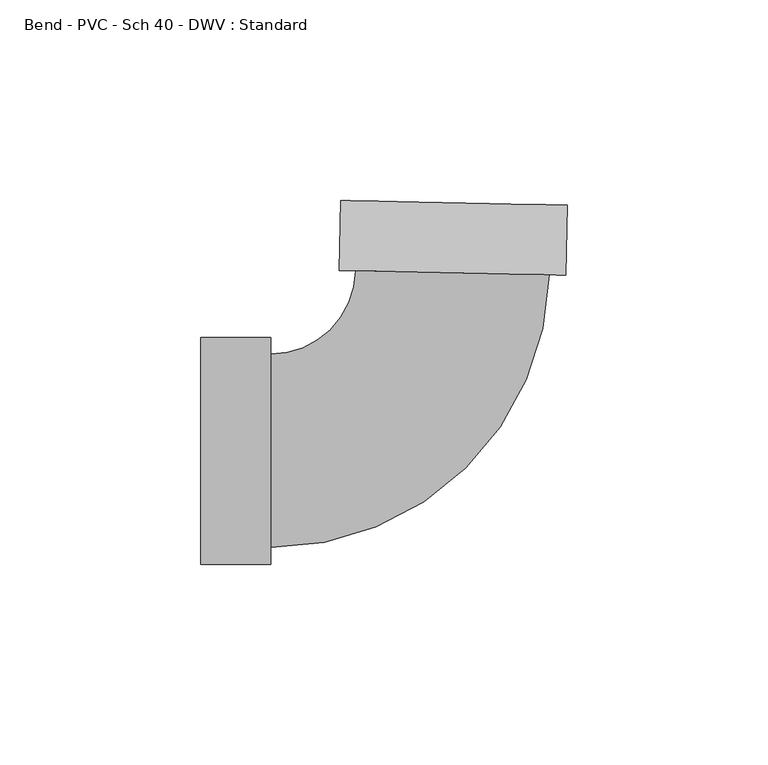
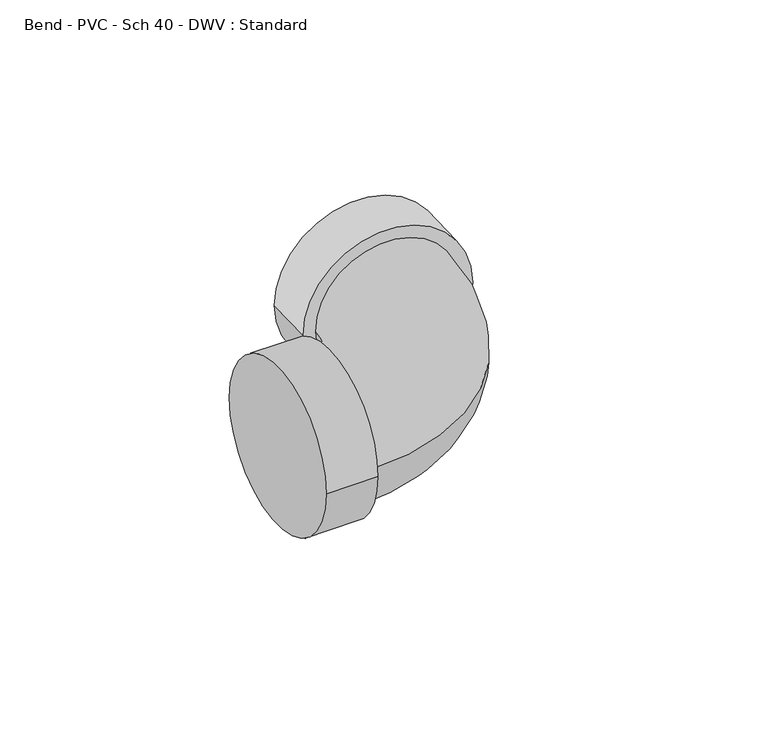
"""IFC4 building model written with IfcOpenShell, lengths in millimetres: pipe fitting geometry, Bend - PVC - Sch 40 - DWV : Standard."""

from ifc_helpers import new_model, si_unit, point, frame, origin, place, context, project, spatial, circle_curve, ellipse_curve, trimmed, source, transform, mapped, element, save
from ifc_brep_helpers import plane_surface, cylinder_surface, revolved_surface, advanced_brep


def bend_pvc_sch_40_dwv_standard_4388fb5c(model_context):
    return source(origin(), model_context, "Body", "AdvancedBrep", [
        advanced_brep(
        [(-61.8998, -28.2829, 0.0), (-61.8998, 28.2829, 0.0), (-44.45, -28.2829, 0.0), (-44.45, 28.2829, 0.0), (-44.45, -24.13, 0.0), (-44.45, 24.13, 0.0), (-23.1989244, 44.9429561, 0.0), (25.0506059, 43.9377576, 0.0), (29.202605, 43.8512576, 0.0), (-27.3509234, 45.0294561, 0.0), (29.5660636, 61.297272, 0.0), (-26.9874648, 62.4754705, 0.0)],
        [
            (0, 1, circle_curve(frame((-61.8998, 0.0, 0.0), z_axis=(-1.0, 0.0, 0.0), x_axis=(0.0, 1.0, 0.0)), 28.2829)),
            (1, 0, circle_curve(frame((-61.8998, 0.0, 0.0), z_axis=(-1.0, 0.0, 0.0), x_axis=(0.0, 1.0, 0.0)), 28.2829)),
            (2, 3, circle_curve(frame((-44.45, 0.0, 0.0), z_axis=(1.0, 0.0, 0.0), x_axis=(0.0, 1.0, 0.0)), 28.2829)),
            (3, 2, circle_curve(frame((-44.45, 0.0, 0.0), z_axis=(1.0, 0.0, 0.0), x_axis=(0.0, 1.0, 0.0)), 28.2829)),
            (4, 5, circle_curve(frame((-44.45, 0.0, 0.0), z_axis=(-1.0, 0.0, 0.0), x_axis=(0.0, 1.0, 0.0)), 24.13)),
            (5, 4, circle_curve(frame((-44.45, 0.0, 0.0), z_axis=(-1.0, 0.0, 0.0), x_axis=(0.0, 1.0, 0.0)), 24.13)),
            (0, 2),
            (3, 1),
            (6, 5, circle_curve(frame((-44.45, 45.3856869, 0.0), z_axis=(0.0, 0.0, -1.0), x_axis=(0.0, -1.0, 0.0)), 21.2556869)),
            (4, 7, circle_curve(frame((-44.45, 45.3856869, 0.0), z_axis=(0.0, 0.0, 1.0), x_axis=(0.0, -1.0, 0.0)), 69.5156869)),
            (7, 6, circle_curve(frame((0.9258408, 44.4403569, 0.0), z_axis=(-0.02082881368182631, -0.9997830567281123, 0.0), x_axis=(-0.9997830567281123, 0.02082881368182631, 0.0)), 24.13)),
            (6, 7, circle_curve(frame((0.9258408, 44.4403569, 0.0), z_axis=(-0.02082881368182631, -0.9997830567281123, 0.0), x_axis=(-0.9997830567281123, 0.02082881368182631, 0.0)), 24.13)),
            (8, 9, circle_curve(frame((0.9258408, 44.4403569, 0.0), z_axis=(-0.020828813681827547, -0.9997830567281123, 0.0), x_axis=(-0.9997830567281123, 0.020828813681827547, 0.0)), 28.2829)),
            (9, 8, circle_curve(frame((0.9258408, 44.4403569, 0.0), z_axis=(-0.020828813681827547, -0.9997830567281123, 0.0), x_axis=(-0.9997830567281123, 0.020828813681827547, 0.0)), 28.2829)),
            (10, 11, circle_curve(frame((1.2892994, 61.8863713, 0.0), z_axis=(0.020828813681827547, 0.9997830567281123, 0.0), x_axis=(-0.9997830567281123, 0.020828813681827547, 0.0)), 28.2829)),
            (11, 10, circle_curve(frame((1.2892994, 61.8863713, 0.0), z_axis=(0.020828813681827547, 0.9997830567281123, 0.0), x_axis=(-0.9997830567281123, 0.020828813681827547, 0.0)), 28.2829)),
            (8, 10),
            (11, 9),
        ],
        [
            plane_surface(frame((-61.8998, 0.0, 0.0), z_axis=(-1.0, 0.0, 0.0), x_axis=(0.0, 0.0, 1.0))),
            plane_surface(frame((-44.45, 0.0, 0.0), z_axis=(1.0, 0.0, 0.0), x_axis=(0.0, 0.0, 1.0))),
            cylinder_surface(frame((-61.8998, 0.0, 0.0), z_axis=(-1.0, 0.0, 0.0), x_axis=(0.0, 1.0, 0.0)), 28.2829),
            revolved_surface(trimmed(ellipse_curve(frame((-44.45, 0.0, 0.0), z_axis=(-1.0, 0.0, 0.0), x_axis=(0.0, 1.0, 0.0)), 24.13, 24.13), [point((-44.45, -24.13, 0.0))], [point((-44.45, 24.13, 0.0))], True, "CARTESIAN"), (-44.45, 45.3856869, 0.0), (0.0, 0.0, 1.0)),
            revolved_surface(trimmed(ellipse_curve(frame((-44.45, 0.0, 0.0), z_axis=(-1.0, 0.0, 0.0), x_axis=(0.0, 1.0, 0.0)), 24.13, 24.13), [point((-44.45, 24.13, 0.0))], [point((-44.45, -24.13, 0.0))], True, "CARTESIAN"), (-44.45, 45.3856869, 0.0), (0.0, 0.0, 1.0)),
            plane_surface(frame((0.9258408, 44.4403569, 0.0), z_axis=(-0.020828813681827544, -0.9997830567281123, 0.0), x_axis=(0.0, 0.0, 1.0))),
            plane_surface(frame((1.2892994, 61.8863713, 0.0), z_axis=(0.020828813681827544, 0.9997830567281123, 0.0), x_axis=(0.0, 0.0, 1.0))),
            cylinder_surface(frame((0.9258408, 44.4403569, 0.0), z_axis=(-0.020828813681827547, -0.9997830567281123, 0.0), x_axis=(-0.9997830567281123, 0.020828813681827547, 0.0)), 28.2829),
        ],
        [
            (0, [[1, 2]]),
            (1, [[3, 4], [5, 6]]),
            (2, [[-1, 7, -4, 8]]),
            (2, [[-2, -8, -3, -7]]),
            (3, [[9, -5, 10, 11]]),
            (4, [[-9, 12, -10, -6]]),
            (5, [[13, 14], [-11, -12]]),
            (6, [[15, 16]]),
            (7, [[-13, 17, -16, 18]]),
            (7, [[-14, -18, -15, -17]]),
        ],
    ),
    ])


if __name__ == "__main__":
    model = new_model("IFC4")
    model_context = context("Model", 3, world=origin())
    ifc_project = project(units=[si_unit("LENGTHUNIT", "METRE", prefix="MILLI")], contexts=[model_context])
    site = spatial("IfcSite", under=ifc_project)
    building = spatial("IfcBuilding", under=site)
    placement = place(None, origin())
    bend_pvc_sch_40_dwv_standard_shape = bend_pvc_sch_40_dwv_standard_4388fb5c(model_context)
    element("IfcPipeFitting", 1, ObjectType="Bend - PVC - Sch 40 - DWV : Standard", at=placement, inside=building, context=model_context, shape_type="MappedRepresentation", body=[
        mapped(bend_pvc_sch_40_dwv_standard_shape, transform((0.0, 0.0, 0.0), x_axis=(1.0, 0.0, 0.0), y_axis=(0.0, 1.0, 0.0), z_axis=(0.0, 0.0, 1.0))),
    ])
    save(model, "model.ifc")
